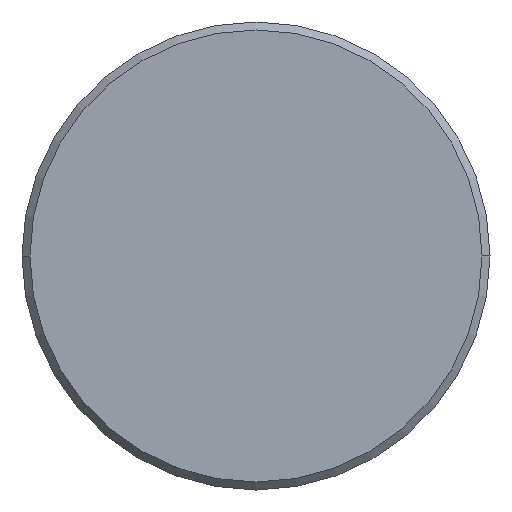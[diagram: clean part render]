
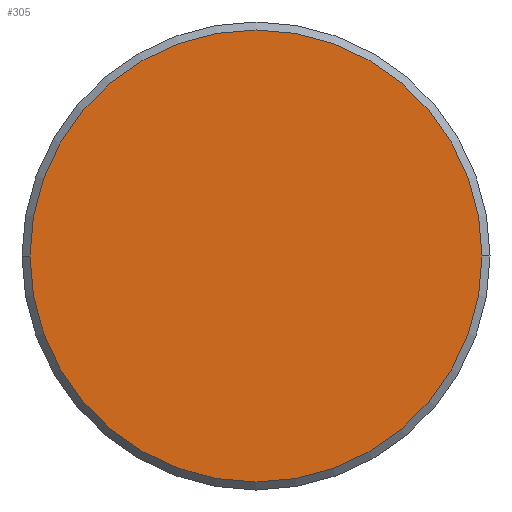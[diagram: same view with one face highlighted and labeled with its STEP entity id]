
A CAD part, left-side view. The second image highlights one B-rep face of the part: STEP entity #305.
In plain terms, the highlighted planar face has unit normal (-1, 0, 0).
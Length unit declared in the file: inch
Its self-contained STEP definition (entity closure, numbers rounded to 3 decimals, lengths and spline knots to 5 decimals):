
#9 = EDGE_CURVE ( 'NONE', #310, #332, #191, .T. ) ;
#25 = CARTESIAN_POINT ( 'NONE',  ( 0., 0., 0. ) ) ;
#26 = ORIENTED_EDGE ( 'NONE', *, *, #192, .T. ) ;
#38 = CARTESIAN_POINT ( 'NONE',  ( 0., -0.11319, 0. ) ) ;
#42 = AXIS2_PLACEMENT_3D ( 'NONE', #94, #179, #233 ) ;
#84 = DIRECTION ( 'NONE',  ( 0., -1., 0. ) ) ;
#94 = CARTESIAN_POINT ( 'NONE',  ( 0., 0., 0. ) ) ;
#114 = CARTESIAN_POINT ( 'NONE',  ( 0., 0., 0. ) ) ;
#120 = EDGE_LOOP ( 'NONE', ( #300, #26 ) ) ;
#140 = DIRECTION ( 'NONE',  ( 0., -1., 0. ) ) ;
#179 = DIRECTION ( 'NONE',  ( -1., 0., 0. ) ) ;
#191 = CIRCLE ( 'NONE', #252, 0.11319 ) ;
#192 = EDGE_CURVE ( 'NONE', #332, #310, #381, .T. ) ;
#227 = FACE_OUTER_BOUND ( 'NONE', #120, .T. ) ;
#230 = CARTESIAN_POINT ( 'NONE',  ( 0., 0.11319, 0. ) ) ;
#233 = DIRECTION ( 'NONE',  ( 0., -1., 0. ) ) ;
#252 = AXIS2_PLACEMENT_3D ( 'NONE', #25, #313, #84 ) ;
#257 = AXIS2_PLACEMENT_3D ( 'NONE', #114, #260, #140 ) ;
#260 = DIRECTION ( 'NONE',  ( -1., 0., 0. ) ) ;
#261 = PLANE ( 'NONE',  #42 ) ;
#300 = ORIENTED_EDGE ( 'NONE', *, *, #9, .T. ) ;
#305 = ADVANCED_FACE ( 'NONE', ( #227 ), #261, .T. ) ;
#310 = VERTEX_POINT ( 'NONE', #230 ) ;
#313 = DIRECTION ( 'NONE',  ( -1., 0., 0. ) ) ;
#332 = VERTEX_POINT ( 'NONE', #38 ) ;
#381 = CIRCLE ( 'NONE', #257, 0.11319 ) ;
